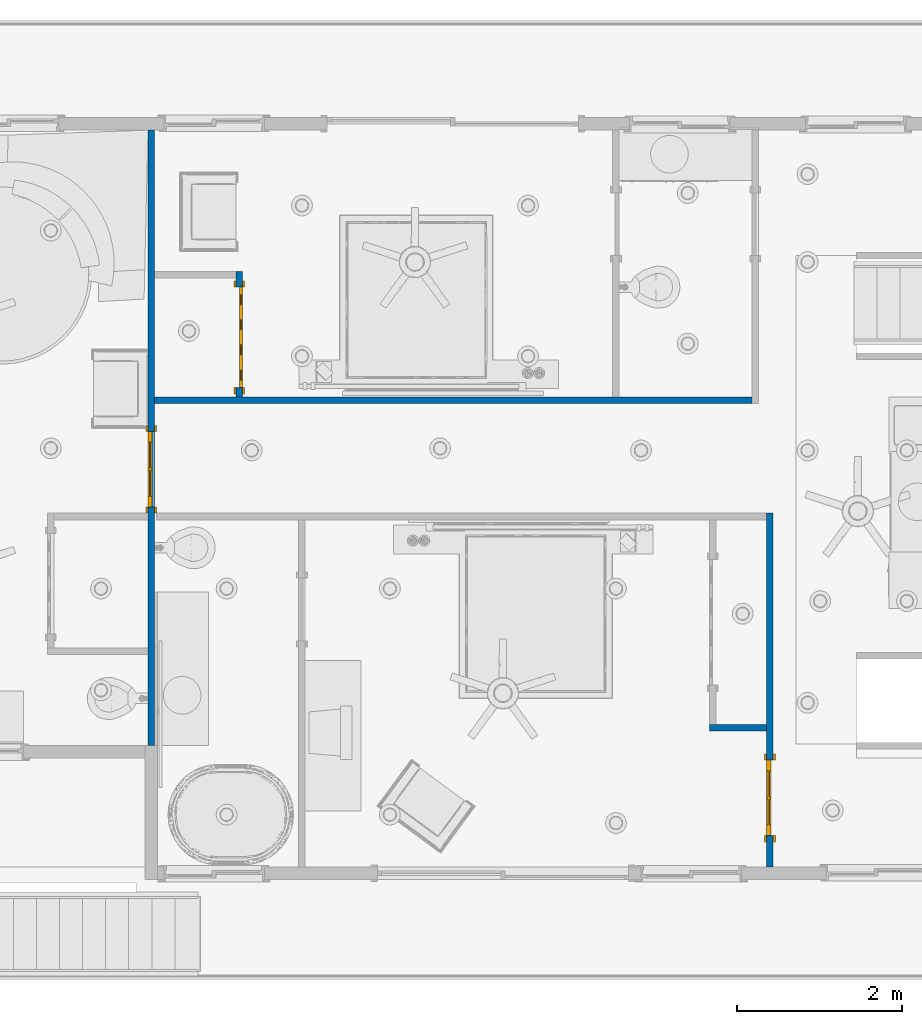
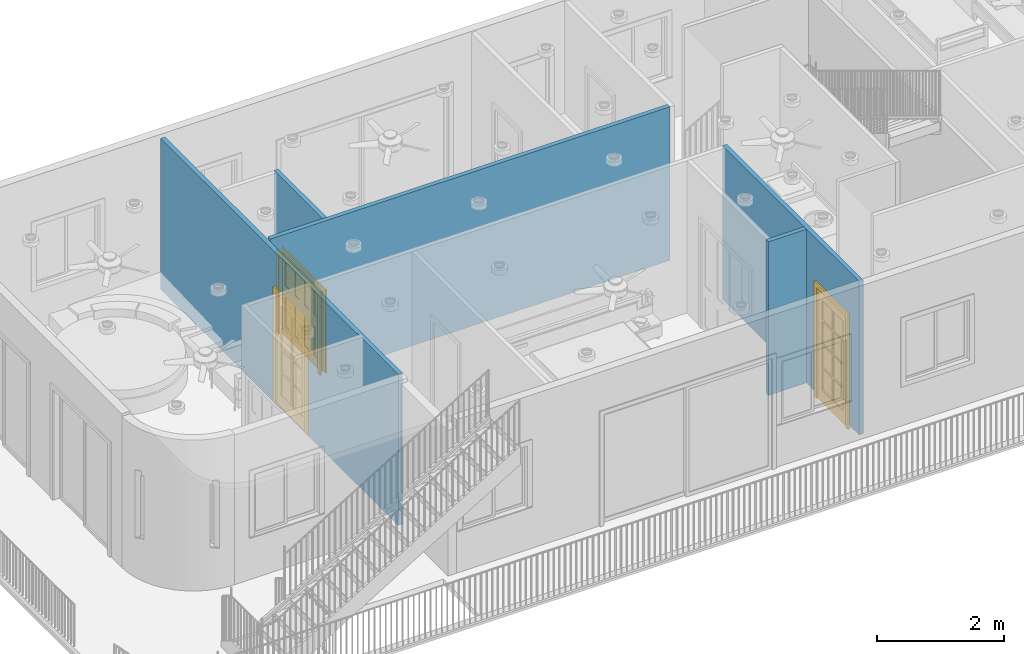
# One storey, part 3 of 28: 5 walls, 3 doors, 3 openings.
"""IFC2X3 building model written with IfcOpenShell, lengths in feet."""

from ifc_helpers import new_model, entity, si_unit, converted_unit, derived_unit, direction, frame, frame_2d, origin, origin_2d_with_axis, place, context, subcontext, project, spatial, polyline, rectangle, outline, extrude, source, transform, mapped, material, material_list, layer, layer_set, layer_usage, type_object, type_shapes, element, fill, save


model = new_model("IFC2X3")

# Units and contexts
model_context = context("Model", 3, precision=0.0001, world=origin(), true_north=direction((6.12303176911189e-17, 1.0)))
body_context = subcontext(model_context, "Body", "Model", "MODEL_VIEW")
ifc_project = project(units=[converted_unit("LENGTHUNIT", "FOOT", entity("IfcRatioMeasure", 0.3048), si_unit("LENGTHUNIT", "METRE"), dimensions=[1, 0, 0, 0, 0, 0, 0]), converted_unit("AREAUNIT", "SQUARE FOOT", entity("IfcRatioMeasure", 0.09290304), si_unit("AREAUNIT", "SQUARE_METRE"), dimensions=[2, 0, 0, 0, 0, 0, 0]), converted_unit("VOLUMEUNIT", "CUBIC FOOT", entity("IfcRatioMeasure", 0.028316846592), si_unit("VOLUMEUNIT", "CUBIC_METRE"), dimensions=[3, 0, 0, 0, 0, 0, 0]), converted_unit("PLANEANGLEUNIT", "DEGREE", entity("IfcRatioMeasure", 0.0174532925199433), si_unit("PLANEANGLEUNIT", "RADIAN"), dimensions=[0, 0, 0, 0, 0, 0, 0]), si_unit("MASSUNIT", "GRAM", prefix="KILO"), derived_unit("MASSDENSITYUNIT", [(si_unit("MASSUNIT", "GRAM", prefix="KILO"), 1), (si_unit("LENGTHUNIT", "METRE"), -3)]), si_unit("TIMEUNIT", "SECOND"), si_unit("FREQUENCYUNIT", "HERTZ"), si_unit("THERMODYNAMICTEMPERATUREUNIT", "DEGREE_CELSIUS"), derived_unit("THERMALTRANSMITTANCEUNIT", [(si_unit("MASSUNIT", "GRAM", prefix="KILO"), 1), (si_unit("THERMODYNAMICTEMPERATUREUNIT", "KELVIN"), -1), (si_unit("TIMEUNIT", "SECOND"), -3)]), derived_unit("VOLUMETRICFLOWRATEUNIT", [(si_unit("LENGTHUNIT", "METRE"), 3), (si_unit("TIMEUNIT", "SECOND"), -1)]), si_unit("ELECTRICCURRENTUNIT", "AMPERE"), si_unit("ELECTRICVOLTAGEUNIT", "VOLT"), si_unit("POWERUNIT", "WATT"), si_unit("FORCEUNIT", "NEWTON"), si_unit("ILLUMINANCEUNIT", "LUX"), si_unit("LUMINOUSFLUXUNIT", "LUMEN"), si_unit("LUMINOUSINTENSITYUNIT", "CANDELA"), derived_unit("USERDEFINED", [(si_unit("MASSUNIT", "GRAM", prefix="KILO"), -1), (si_unit("LENGTHUNIT", "METRE"), -2), (si_unit("TIMEUNIT", "SECOND"), 3), (si_unit("LUMINOUSFLUXUNIT", "LUMEN"), 1)]), derived_unit("LINEARVELOCITYUNIT", [(si_unit("LENGTHUNIT", "METRE"), 1), (si_unit("TIMEUNIT", "SECOND"), -1)]), si_unit("PRESSUREUNIT", "PASCAL"), derived_unit("USERDEFINED", [(si_unit("LENGTHUNIT", "METRE"), -2), (si_unit("MASSUNIT", "GRAM", prefix="KILO"), 1), (si_unit("TIMEUNIT", "SECOND"), -2)])], contexts=[model_context])

# Site, building, storey
site_placement = place(None, origin())
site = spatial("IfcSite", under=ifc_project, at=site_placement, Name="表面", CompositionType="ELEMENT")
building_placement = place(site_placement, origin())
building = spatial("IfcBuilding", under=site, at=building_placement, CompositionType="ELEMENT")
storey_placement = place(building_placement, frame((0.0, 0.0, 10.0)))
storey = spatial("IfcBuildingStorey", under=building, at=storey_placement, Name="Level 2", CompositionType="ELEMENT", Elevation=9.99999999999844)

# Wall, opening, door
ifc_material_1 = material(Name="Gypsum Wall Board")
ifc_layer_1 = layer(ifc_material_1, 0.0416666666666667)
ifc_layer_2 = layer(ifc_material_1, 0.0208333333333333)
ifc_material_2 = material(Name="Metal - Stud Layer")
ifc_layer_3 = layer(ifc_material_2, 0.135416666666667)
ifc_layer_4 = layer(ifc_material_1, 0.0208333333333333)
ifc_layer_5 = layer(ifc_material_1, 0.0416666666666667)
ifc_layer_set = layer_set([ifc_layer_1, ifc_layer_2, ifc_layer_3, ifc_layer_4, ifc_layer_5], Name="基本墙:Interior - 3 1/8\" Partition (1-hr)")
ifc_layer_usage_1 = layer_usage(ifc_layer_set, "AXIS2", "NEGATIVE", 0.130208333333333)
wall_type = type_object("IfcWallType", Name="基本墙:Interior - 3 1/8\" Partition (1-hr)", PredefinedType="STANDARD", material=ifc_layer_set)
wall_1_placement = place(storey_placement, frame((-19.8682464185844, -8.06760630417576, 0.250000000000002), z_axis=(0.0, 0.0, 1.0), x_axis=(0.0, 1.0, 0.0)))
wall_1 = element("IfcWallStandardCase", 1, at=wall_1_placement, inside=storey, type_object=wall_type, material=ifc_layer_usage_1, Name="基本墙:Interior - 3 1/8\" Partition (1-hr)", ObjectType="基本墙:Interior - 3 1/8\" Partition (1-hr):258", context=body_context, shape_type="SweptSolid", body=[
    extrude(rectangle(XDim=24.5, YDim=0.260416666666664, at=frame_2d((12.25, -3.88578058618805e-16), x_axis=(-1.0, 0.0))), origin(), (0.0, 0.0, 1.0), 9.5),
])
opening_1_placement = place(wall_1_placement, frame((9.5, -0.130208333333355, 0.0833333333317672)))
opening_1 = element("IfcOpeningElement", 2, at=opening_1_placement, cuts=wall_1, Name="Single-Glass 2:30\" x 84\":1", ObjectType="Opening", context=body_context, shape_type="SweptSolid", body=[
    extrude(rectangle(XDim=3.0, YDim=7.0, at=frame_2d((3.5, 1.5), x_axis=(0.0, -1.0))), frame((0.0, 0.0, 0.0), z_axis=(0.0, 1.0, 0.0), x_axis=(0.0, 0.0, 1.0)), (0.0, 0.0, 1.0), 0.260416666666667),
])
ifc_material_3 = material(Name="Door - Frame")
ifc_material_4 = material(Name="Door - Panel")
ifc_material_5 = material(Name="Glass")
ifc_material_list_1 = material_list([ifc_material_3, ifc_material_4, ifc_material_5])
ifc_material_list_2 = material_list([ifc_material_3, ifc_material_4, ifc_material_5])
door_style_1 = type_object("IfcDoorStyle", Name="30\" x 84\"", ConstructionType="NOTDEFINED", OperationType="SINGLE_SWING_LEFT", ParameterTakesPrecedence=False, Sizeable=False, material=ifc_material_list_2)
shared_shape_1 = source(origin(), body_context, "Body", "SweptSolid", [
    extrude(outline(polyline([(-3.68750000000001, -1.74999999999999), (3.56250000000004, -1.74999999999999), (3.56250000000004, -1.49999999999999), (-3.43750000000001, -1.49999999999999), (-3.43750000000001, 1.49999999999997), (3.56249999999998, 1.49999999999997), (3.56249999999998, 1.75000000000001), (-3.68750000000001, 1.75000000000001), (-3.68750000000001, -1.74999999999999)])), frame((1.33333333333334, 0.0, 3.56249999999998), z_axis=(0.0, -1.0, 0.0), x_axis=(0.0, 0.0, -1.0)), (0.0, 0.0, 1.0), 0.0833333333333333),
    extrude(outline(polyline([(-1.75000000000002, -3.68750000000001), (1.74999999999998, -3.68750000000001), (1.74999999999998, 3.56250000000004), (1.50000000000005, 3.56250000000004), (1.50000000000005, -3.43750000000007), (-1.50000000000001, -3.43750000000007), (-1.50000000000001, 3.56250000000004), (-1.75000000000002, 3.56250000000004), (-1.75000000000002, -3.68750000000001)])), frame((1.33333333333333, 0.343749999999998, 3.56249999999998), z_axis=(0.0, -1.0, 0.0), x_axis=(-1.0, 0.0, 0.0)), (0.0, 0.0, 1.0), 0.0833333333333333),
    extrude(outline(polyline([(-3.50000000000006, -1.50000000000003), (3.50000000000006, -1.50000000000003), (3.50000000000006, 1.50000000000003), (-3.50000000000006, 1.50000000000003), (-3.50000000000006, -1.50000000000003)]), holes=[polyline([(-2.91666666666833, 0.0416666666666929), (-2.91666666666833, 1.08333333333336), (-1.68750000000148, 1.08333333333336), (-1.68750000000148, 0.0416666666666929), (-2.91666666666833, 0.0416666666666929)]), polyline([(-2.91666666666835, -1.08333333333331), (-2.91666666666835, -0.0416666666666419), (-1.68750000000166, -0.0416666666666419), (-1.68750000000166, -1.08333333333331), (-2.91666666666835, -1.08333333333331)]), polyline([(-1.60416666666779, 0.0416666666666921), (-1.60416666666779, 1.08333333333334), (-0.208333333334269, 1.08333333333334), (-0.208333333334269, 0.0416666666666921), (-1.60416666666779, 0.0416666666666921)]), polyline([(-1.60416666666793, -1.08333333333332), (-1.60416666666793, -0.0416666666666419), (-0.208333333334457, -0.0416666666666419), (-0.208333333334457, -1.08333333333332), (-1.60416666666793, -1.08333333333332)]), polyline([(-0.125000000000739, 0.0416666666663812), (-0.125000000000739, 1.08333333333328), (1.27083333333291, 1.08333333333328), (1.27083333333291, 0.0416666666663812), (-0.125000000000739, 0.0416666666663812)]), polyline([(-0.125000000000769, -1.08333333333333), (-0.125000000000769, -0.0416666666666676), (1.27083333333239, -0.0416666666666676), (1.27083333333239, -1.08333333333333), (-0.125000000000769, -1.08333333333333)]), polyline([(1.35416666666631, 0.0416666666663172), (1.35416666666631, 1.08333333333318), (2.75000000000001, 1.08333333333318), (2.75000000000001, 0.0416666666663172), (1.35416666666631, 0.0416666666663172)]), polyline([(1.35416666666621, -1.0833333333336), (1.35416666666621, -0.041666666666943), (2.75000000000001, -0.041666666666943), (2.75000000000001, -1.0833333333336), (1.35416666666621, -1.0833333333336)])]), frame((1.33333333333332, 0.260416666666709, 3.49999999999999), z_axis=(0.0, -1.0, 0.0), x_axis=(0.0, 0.0, -1.0)), (0.0, 0.0, 1.0), 0.166666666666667),
    extrude(rectangle(XDim=1.04166666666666, YDim=0.041666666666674, at=origin_2d_with_axis()), frame((0.770833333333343, 0.177083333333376, 5.18750000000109)), (0.0, 0.0, 1.0), 1.22916666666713),
    extrude(rectangle(XDim=1.04166666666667, YDim=0.041666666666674, at=origin_2d_with_axis()), frame((1.89583333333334, 0.177083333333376, 5.18750000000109)), (0.0, 0.0, 1.0), 1.22916666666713),
    extrude(rectangle(XDim=1.04166666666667, YDim=0.041666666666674, at=origin_2d_with_axis()), frame((0.770833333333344, 0.177083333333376, 3.70833333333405)), (0.0, 0.0, 1.0), 1.39583333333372),
    extrude(rectangle(XDim=1.04166666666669, YDim=0.041666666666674, at=origin_2d_with_axis()), frame((1.89583333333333, 0.177083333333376, 3.70833333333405)), (0.0, 0.0, 1.0), 1.39583333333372),
    extrude(rectangle(XDim=1.04166666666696, YDim=0.041666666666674, at=origin_2d_with_axis()), frame((1.8958333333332, 0.177083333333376, 2.22916666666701)), (0.0, 0.0, 1.0), 1.39583333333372),
    extrude(rectangle(XDim=1.04166666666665, YDim=0.041666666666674, at=origin_2d_with_axis()), frame((0.770833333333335, 0.177083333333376, 2.22916666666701)), (0.0, 0.0, 1.0), 1.39583333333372),
    extrude(rectangle(XDim=1.04166666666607, YDim=0.041666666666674, at=origin_2d_with_axis()), frame((0.770833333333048, 0.177083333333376, 0.749999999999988)), (0.0, 0.0, 1.0), 1.39583333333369),
    extrude(rectangle(XDim=1.04166666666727, YDim=0.041666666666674, at=origin_2d_with_axis()), frame((1.89583333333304, 0.177083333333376, 0.749999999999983)), (0.0, 0.0, 1.0), 1.3958333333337),
])
type_shapes(door_style_1, [shared_shape_1])
door_1_placement = place(opening_1_placement, frame((0.166666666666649, 0.0, 0.0)))
door_1 = element("IfcDoor", 3, at=door_1_placement, inside=storey, type_object=door_style_1, material=ifc_material_list_1, Name="Single-Glass 2:30\" x 84\"", ObjectType="30\" x 84\"", OverallHeight=7.0, OverallWidth=3.0, context=body_context, shape_type="MappedRepresentation", body=[
    mapped(shared_shape_1, transform((0.0, 0.0, 0.0), scale=1.0)),
])
fill(opening_1, door_1)

ifc_layer_usage_2 = layer_usage(ifc_layer_set, "AXIS2", "NEGATIVE", 0.130208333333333)
wall_2_placement = place(storey_placement, frame((4.76196191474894, 1.18239369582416, 0.250000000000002), z_axis=(0.0, 0.0, 1.0), x_axis=(0.0, -1.0, 0.0)))
wall_2 = element("IfcWallStandardCase", 4, at=wall_2_placement, inside=storey, type_object=wall_type, material=ifc_layer_usage_2, Name="基本墙:Interior - 3 1/8\" Partition (1-hr)", ObjectType="基本墙:Interior - 3 1/8\" Partition (1-hr):258", context=body_context, shape_type="SweptSolid", body=[
    extrude(rectangle(XDim=14.0833333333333, YDim=0.260416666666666, at=frame_2d((7.04166666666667, -1.2490009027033e-16), x_axis=(-1.0, 0.0))), origin(), (0.0, 0.0, 1.0), 9.66666666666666),
])
opening_2_placement = place(wall_2_placement, frame((12.8333333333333, 0.130208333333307, -0.250000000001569)))
opening_2 = element("IfcOpeningElement", 5, at=opening_2_placement, cuts=wall_2, Name="Single-Glass 2:30\" x 84\":1", ObjectType="Opening", context=body_context, shape_type="SweptSolid", body=[
    extrude(rectangle(XDim=3.0, YDim=7.0, at=frame_2d((3.5, 1.5), x_axis=(0.0, 1.0))), frame((0.0, 0.0, 0.0), z_axis=(0.0, -1.0, 0.0), x_axis=(0.0, 0.0, 1.0)), (0.0, 0.0, 1.0), 0.260416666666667),
])
ifc_material_list_3 = material_list([ifc_material_3, ifc_material_4, ifc_material_5])
ifc_material_list_4 = material_list([ifc_material_3, ifc_material_4, ifc_material_5])
door_style_2 = type_object("IfcDoorStyle", Name="30\" x 84\"", ConstructionType="NOTDEFINED", OperationType="SINGLE_SWING_RIGHT", ParameterTakesPrecedence=False, Sizeable=False, material=ifc_material_list_4)
shared_shape_2 = source(origin(), body_context, "Body", "SweptSolid", [
    extrude(outline(polyline([(-3.68750000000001, -1.74999999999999), (3.56250000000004, -1.74999999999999), (3.56250000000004, -1.49999999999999), (-3.43750000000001, -1.49999999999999), (-3.43750000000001, 1.49999999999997), (3.56249999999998, 1.49999999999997), (3.56249999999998, 1.75000000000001), (-3.68750000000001, 1.75000000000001), (-3.68750000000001, -1.74999999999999)])), frame((1.50000000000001, -0.0833333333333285, 3.56249999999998), z_axis=(0.0, 1.0, 0.0), x_axis=(0.0, 0.0, -1.0)), (0.0, 0.0, 1.0), 0.0833333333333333),
    extrude(outline(polyline([(-1.75000000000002, -3.68750000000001), (1.74999999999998, -3.68750000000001), (1.74999999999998, 3.56250000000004), (1.50000000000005, 3.56250000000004), (1.50000000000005, -3.43750000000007), (-1.50000000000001, -3.43750000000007), (-1.50000000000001, 3.56250000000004), (-1.75000000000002, 3.56250000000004), (-1.75000000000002, -3.68750000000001)])), frame((1.50000000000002, 0.260416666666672, 3.56249999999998), z_axis=(0.0, 1.0, 0.0), x_axis=(1.0, 0.0, 0.0)), (0.0, 0.0, 1.0), 0.0833333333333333),
    extrude(outline(polyline([(-3.50000000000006, -1.50000000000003), (3.50000000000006, -1.50000000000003), (3.50000000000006, 1.50000000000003), (-3.50000000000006, 1.50000000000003), (-3.50000000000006, -1.50000000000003)]), holes=[polyline([(-2.91666666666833, 0.0416666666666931), (-2.91666666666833, 1.08333333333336), (-1.68750000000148, 1.08333333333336), (-1.68750000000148, 0.0416666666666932), (-2.91666666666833, 0.0416666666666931)]), polyline([(-2.91666666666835, -1.08333333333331), (-2.91666666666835, -0.0416666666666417), (-1.68750000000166, -0.0416666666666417), (-1.68750000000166, -1.08333333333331), (-2.91666666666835, -1.08333333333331)]), polyline([(-1.60416666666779, 0.0416666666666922), (-1.60416666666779, 1.08333333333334), (-0.208333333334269, 1.08333333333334), (-0.208333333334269, 0.0416666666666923), (-1.60416666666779, 0.0416666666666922)]), polyline([(-1.60416666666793, -1.08333333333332), (-1.60416666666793, -0.0416666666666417), (-0.208333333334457, -0.0416666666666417), (-0.208333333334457, -1.08333333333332), (-1.60416666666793, -1.08333333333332)]), polyline([(-0.125000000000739, 0.0416666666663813), (-0.125000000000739, 1.08333333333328), (1.27083333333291, 1.08333333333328), (1.27083333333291, 0.0416666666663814), (-0.125000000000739, 0.0416666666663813)]), polyline([(-0.125000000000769, -1.08333333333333), (-0.125000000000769, -0.0416666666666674), (1.27083333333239, -0.0416666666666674), (1.27083333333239, -1.08333333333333), (-0.125000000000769, -1.08333333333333)]), polyline([(1.35416666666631, 0.0416666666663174), (1.35416666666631, 1.08333333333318), (2.75000000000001, 1.08333333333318), (2.75000000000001, 0.0416666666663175), (1.35416666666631, 0.0416666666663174)]), polyline([(1.35416666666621, -1.0833333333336), (1.35416666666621, -0.0416666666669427), (2.75000000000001, -0.0416666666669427), (2.75000000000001, -1.0833333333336), (1.35416666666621, -1.0833333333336)])]), frame((1.50000000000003, 0.0937500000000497, 3.49999999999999), z_axis=(0.0, 1.0, 0.0), x_axis=(0.0, 0.0, -1.0)), (0.0, 0.0, 1.0), 0.166666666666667),
    extrude(rectangle(XDim=0.041666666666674, YDim=1.04166666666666, at=origin_2d_with_axis()), frame((2.06250000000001, 0.177083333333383, 5.18750000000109), z_axis=(0.0, 0.0, 1.0), x_axis=(0.0, 1.0, 0.0)), (0.0, 0.0, 1.0), 1.22916666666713),
    extrude(rectangle(XDim=0.041666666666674, YDim=1.04166666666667, at=origin_2d_with_axis()), frame((0.937500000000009, 0.177083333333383, 5.18750000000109), z_axis=(0.0, 0.0, 1.0), x_axis=(0.0, 1.0, 0.0)), (0.0, 0.0, 1.0), 1.22916666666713),
    extrude(rectangle(XDim=0.041666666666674, YDim=1.04166666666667, at=origin_2d_with_axis()), frame((2.06250000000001, 0.177083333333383, 3.70833333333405), z_axis=(0.0, 0.0, 1.0), x_axis=(0.0, 1.0, 0.0)), (0.0, 0.0, 1.0), 1.39583333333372),
    extrude(rectangle(XDim=0.041666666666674, YDim=1.04166666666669, at=origin_2d_with_axis()), frame((0.937500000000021, 0.177083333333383, 3.70833333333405), z_axis=(0.0, 0.0, 1.0), x_axis=(0.0, 1.0, 0.0)), (0.0, 0.0, 1.0), 1.39583333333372),
    extrude(rectangle(XDim=0.041666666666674, YDim=1.04166666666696, at=origin_2d_with_axis()), frame((0.937500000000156, 0.177083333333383, 2.22916666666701), z_axis=(0.0, 0.0, 1.0), x_axis=(0.0, 1.0, 0.0)), (0.0, 0.0, 1.0), 1.39583333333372),
    extrude(rectangle(XDim=0.041666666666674, YDim=1.04166666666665, at=origin_2d_with_axis()), frame((2.06250000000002, 0.177083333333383, 2.22916666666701), z_axis=(0.0, 0.0, 1.0), x_axis=(0.0, 1.0, 0.0)), (0.0, 0.0, 1.0), 1.39583333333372),
    extrude(rectangle(XDim=0.041666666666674, YDim=1.04166666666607, at=frame_2d((0.0, -1.11022302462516e-16), x_axis=(1.0, 0.0))), frame((2.0625000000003, 0.177083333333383, 0.749999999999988), z_axis=(0.0, 0.0, 1.0), x_axis=(0.0, 1.0, 0.0)), (0.0, 0.0, 1.0), 1.39583333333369),
    extrude(rectangle(XDim=0.041666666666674, YDim=1.04166666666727, at=origin_2d_with_axis()), frame((0.937500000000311, 0.177083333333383, 0.749999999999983), z_axis=(0.0, 0.0, 1.0), x_axis=(0.0, 1.0, 0.0)), (0.0, 0.0, 1.0), 1.3958333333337),
])
type_shapes(door_style_2, [shared_shape_2])
door_2_placement = place(opening_2_placement, frame((0.0, 0.0, 0.0), z_axis=(0.0, 0.0, 1.0), x_axis=(-1.0, 0.0, 0.0)))
door_2 = element("IfcDoor", 6, at=door_2_placement, inside=storey, type_object=door_style_2, material=ifc_material_list_3, Name="Single-Glass 2:30\" x 84\"", ObjectType="30\" x 84\"", OverallHeight=7.0, OverallWidth=3.0, context=body_context, shape_type="MappedRepresentation", body=[
    mapped(shared_shape_2, transform((0.0, 0.0, 0.0), scale=1.0)),
])
fill(opening_2, door_2)

# Wall
ifc_layer_usage_3 = layer_usage(ifc_layer_set, "AXIS2", "NEGATIVE", 0.130208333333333)
wall_3_placement = place(storey_placement, frame((4.6317535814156, -7.36448130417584, 0.250000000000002), z_axis=(0.0, 0.0, 1.0), x_axis=(-1.0, 0.0, 0.0)))
element("IfcWallStandardCase", 7, at=wall_3_placement, inside=storey, type_object=wall_type, material=ifc_layer_usage_3, Name="基本墙:Interior - 3 1/8\" Partition (1-hr)", ObjectType="基本墙:Interior - 3 1/8\" Partition (1-hr):258", context=body_context, shape_type="SweptSolid", body=[
    extrude(rectangle(XDim=2.27083333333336, YDim=0.260416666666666, at=frame_2d((1.13541666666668, 1.11022302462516e-16), x_axis=(-1.0, 0.0))), origin(), (0.0, 0.0, 1.0), 9.66666666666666),
])

# Wall, opening, door
ifc_layer_usage_4 = layer_usage(ifc_layer_set, "AXIS2", "NEGATIVE", 0.130208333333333)
wall_4_placement = place(storey_placement, frame((-16.3682464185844, 5.81260202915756, 0.250000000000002), z_axis=(0.0, 0.0, 1.0), x_axis=(0.0, 1.0, 0.0)))
wall_4 = element("IfcWallStandardCase", 8, at=wall_4_placement, inside=storey, type_object=wall_type, material=ifc_layer_usage_4, Name="基本墙:Interior - 3 1/8\" Partition (1-hr)", ObjectType="基本墙:Interior - 3 1/8\" Partition (1-hr):258", context=body_context, shape_type="SweptSolid", body=[
    extrude(rectangle(XDim=5.0, YDim=0.260416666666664, at=frame_2d((2.5, -1.38777878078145e-17), x_axis=(-1.0, 0.0))), origin(), (0.0, 0.0, 1.0), 9.66666666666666),
])
opening_3_placement = place(wall_4_placement, frame((4.36979166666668, 0.130208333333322, -0.250000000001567)))
opening_3 = element("IfcOpeningElement", 9, at=opening_3_placement, cuts=wall_4, Name="Bifold-4 Panel:48\" x 84\":1", ObjectType="Opening", context=body_context, shape_type="SweptSolid", body=[
    extrude(rectangle(XDim=5.0, YDim=4.0, at=frame_2d((2.5, 2.0), x_axis=(1.0, 0.0))), frame((0.0, 0.0, 0.0), z_axis=(0.0, -1.0, 0.0), x_axis=(0.0, 0.0, 1.0)), (0.0, 0.0, 1.0), 0.260416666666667),
])
ifc_material_list_5 = material_list([ifc_material_4, ifc_material_3])
ifc_material_list_6 = material_list([ifc_material_4, ifc_material_3])
door_style_3 = type_object("IfcDoorStyle", Name="48\" x 84\"", ConstructionType="NOTDEFINED", OperationType="NOTDEFINED", ParameterTakesPrecedence=False, Sizeable=False, material=ifc_material_list_6)
shared_shape_3 = source(origin(), body_context, "Body", "SweptSolid", [
    extrude(rectangle(XDim=0.0416666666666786, YDim=0.416666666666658, at=frame_2d((3.46944695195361e-18, -1.11022302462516e-16), x_axis=(1.0, 0.0))), frame((0.499999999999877, 0.197916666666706, 3.16666666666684), z_axis=(0.0, 0.0, 1.0), x_axis=(0.0, -1.0, 0.0)), (0.0, 0.0, 1.0), 1.56250000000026),
    extrude(rectangle(XDim=0.0416666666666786, YDim=0.416666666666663, at=frame_2d((6.93889390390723e-18, -1.11022302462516e-16), x_axis=(1.0, 0.0))), frame((3.49999999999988, 0.197916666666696, 3.16666666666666), z_axis=(0.0, 0.0, 1.0), x_axis=(0.0, -1.0, 0.0)), (0.0, 0.0, 1.0), 1.56250000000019),
    extrude(rectangle(XDim=0.0416666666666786, YDim=0.416666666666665, at=frame_2d((6.93889390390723e-18, 0.0), x_axis=(1.0, 0.0))), frame((3.49999999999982, 0.197916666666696, 0.604166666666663), z_axis=(0.0, 0.0, 1.0), x_axis=(0.0, -1.0, 0.0)), (0.0, 0.0, 1.0), 1.85416666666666),
    extrude(rectangle(XDim=0.0416666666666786, YDim=0.416666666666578, at=frame_2d((6.93889390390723e-18, 0.0), x_axis=(1.0, 0.0))), frame((2.49999999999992, 0.197916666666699, 3.16666666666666), z_axis=(0.0, 0.0, 1.0), x_axis=(0.0, -1.0, 0.0)), (0.0, 0.0, 1.0), 1.5625000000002),
    extrude(rectangle(XDim=0.0416666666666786, YDim=0.41666666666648, at=frame_2d((6.93889390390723e-18, 0.0), x_axis=(1.0, 0.0))), frame((2.49999999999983, 0.197916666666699, 0.604166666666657), z_axis=(0.0, 0.0, 1.0), x_axis=(0.0, -1.0, 0.0)), (0.0, 0.0, 1.0), 1.85416666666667),
    extrude(rectangle(XDim=0.0416666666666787, YDim=0.416666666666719, at=frame_2d((1.04083408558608e-17, 0.0), x_axis=(1.0, 0.0))), frame((1.49999999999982, 0.197916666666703, 0.604166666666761), z_axis=(0.0, 0.0, 1.0), x_axis=(0.0, -1.0, 0.0)), (0.0, 0.0, 1.0), 1.85416666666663),
    extrude(rectangle(XDim=0.0416666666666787, YDim=0.416666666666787, at=frame_2d((1.04083408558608e-17, 0.0), x_axis=(1.0, 0.0))), frame((1.49999999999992, 0.197916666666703, 3.16666666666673), z_axis=(0.0, 0.0, 1.0), x_axis=(0.0, -1.0, 0.0)), (0.0, 0.0, 1.0), 1.56250000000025),
    extrude(rectangle(XDim=0.0416666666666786, YDim=0.416666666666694, at=frame_2d((3.46944695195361e-18, -1.11022302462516e-16), x_axis=(1.0, 0.0))), frame((0.499999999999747, 0.197916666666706, 0.604166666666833), z_axis=(0.0, 0.0, 1.0), x_axis=(0.0, -1.0, 0.0)), (0.0, 0.0, 1.0), 1.85416666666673),
    extrude(outline(polyline([(-2.24999999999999, -2.5625), (-2.0, -2.5625), (-2.0, 2.4375), (2.0, 2.4375), (2.0, -2.5625), (2.25000000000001, -2.5625), (2.25000000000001, 2.6875), (-2.24999999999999, 2.6875), (-2.24999999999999, -2.5625)])), frame((2.0, -0.0833333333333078, 2.5625), z_axis=(0.0, 1.0, 0.0), x_axis=(-1.0, 0.0, 0.0)), (0.0, 0.0, 1.0), 0.0833333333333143),
    extrude(outline(polyline([(-2.25000000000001, -2.5625), (-2.0, -2.5625), (-2.0, 2.4375), (2.0, 2.4375), (2.0, -2.5625), (2.25, -2.5625), (2.25, 2.6875), (-2.25000000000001, 2.6875), (-2.25000000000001, -2.5625)])), frame((2.0, 0.260416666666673, 2.5625), z_axis=(0.0, 1.0, 0.0), x_axis=(-1.0, 0.0, 0.0)), (0.0, 0.0, 1.0), 0.0833333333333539),
    extrude(outline(polyline([(-2.5, -0.5), (2.5, -0.5), (2.5, 0.5), (-2.5, 0.5), (-2.5, -0.5)]), holes=[polyline([(2.22916666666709, -0.208333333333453), (0.666666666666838, -0.208333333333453), (0.666666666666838, 0.208333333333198), (2.22916666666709, 0.208333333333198), (2.22916666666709, -0.208333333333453)]), polyline([(-0.0416666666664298, -0.208333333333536), (-1.89583333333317, -0.208333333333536), (-1.89583333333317, 0.208333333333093), (-0.0416666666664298, 0.208333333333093), (-0.0416666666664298, -0.208333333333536)])]), frame((0.5, 0.135416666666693, 2.5), z_axis=(0.0, 1.0, 0.0), x_axis=(0.0, 0.0, 1.0)), (0.0, 0.0, 1.0), 0.124999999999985),
    extrude(outline(polyline([(-2.5, -0.499999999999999), (2.5, -0.499999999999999), (2.5, 0.499999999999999), (-2.5, 0.499999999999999), (-2.5, -0.499999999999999)]), holes=[polyline([(2.22916666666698, -0.208333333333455), (0.666666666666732, -0.208333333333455), (0.666666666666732, 0.208333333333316), (2.22916666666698, 0.208333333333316), (2.22916666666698, -0.208333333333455)]), polyline([(-0.0416666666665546, -0.208333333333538), (-1.89583333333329, -0.208333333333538), (-1.89583333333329, 0.208333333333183), (-0.0416666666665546, 0.208333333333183), (-0.0416666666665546, -0.208333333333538)])]), frame((1.5, 0.13541666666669, 2.5), z_axis=(0.0, 1.0, 0.0), x_axis=(0.0, 0.0, 1.0)), (0.0, 0.0, 1.0), 0.124999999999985),
    extrude(outline(polyline([(-2.5, -0.500000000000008), (2.5, -0.500000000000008), (2.5, 0.500000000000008), (-2.5, 0.500000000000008), (-2.5, -0.500000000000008)]), holes=[polyline([(2.22916666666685, -0.20833333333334), (0.666666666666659, -0.20833333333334), (0.666666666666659, 0.208333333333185), (2.22916666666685, 0.208333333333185), (2.22916666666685, -0.20833333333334)]), polyline([(-0.041666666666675, -0.208333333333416), (-1.89583333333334, -0.208333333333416), (-1.89583333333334, 0.208333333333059), (-0.041666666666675, 0.208333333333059), (-0.041666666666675, -0.208333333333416)])]), frame((2.50000000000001, 0.135416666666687, 2.5), z_axis=(0.0, 1.0, 0.0), x_axis=(0.0, 0.0, 1.0)), (0.0, 0.0, 1.0), 0.124999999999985),
    extrude(outline(polyline([(-2.5, -0.500000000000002), (2.5, -0.500000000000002), (2.5, 0.500000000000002), (-2.5, 0.500000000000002), (-2.5, -0.500000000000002)]), holes=[polyline([(2.22916666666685, -0.208333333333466), (0.666666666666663, -0.208333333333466), (0.666666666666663, 0.208333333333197), (2.22916666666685, 0.208333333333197), (2.22916666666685, -0.208333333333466)]), polyline([(-0.0416666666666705, -0.208333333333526), (-1.89583333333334, -0.208333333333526), (-1.89583333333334, 0.208333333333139), (-0.0416666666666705, 0.208333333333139), (-0.0416666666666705, -0.208333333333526)])]), frame((3.50000000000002, 0.135416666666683, 2.5), z_axis=(0.0, 1.0, 0.0), x_axis=(0.0, 0.0, 1.0)), (0.0, 0.0, 1.0), 0.124999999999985),
])
type_shapes(door_style_3, [shared_shape_3])
door_3_placement = place(opening_3_placement, frame((0.0, 0.0, 0.0), z_axis=(0.0, 0.0, 1.0), x_axis=(-1.0, 0.0, 0.0)))
door_3 = element("IfcDoor", 10, at=door_3_placement, inside=storey, type_object=door_style_3, material=ifc_material_list_5, Name="Bifold-4 Panel:48\" x 84\"", ObjectType="48\" x 84\"", OverallHeight=5.0, OverallWidth=4.0, context=body_context, shape_type="MappedRepresentation", body=[
    mapped(shared_shape_3, transform((0.0, 0.0, 0.0), scale=1.0)),
])
fill(opening_3, door_3)

# Wall
ifc_layer_usage_5 = layer_usage(ifc_layer_set, "AXIS2", "NEGATIVE", 0.130208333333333)
wall_5_placement = place(storey_placement, frame((4.04842024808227, 5.68239369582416, 0.250000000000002), z_axis=(0.0, 0.0, 1.0), x_axis=(-1.0, 0.0, 0.0)))
element("IfcWallStandardCase", 11, at=wall_5_placement, inside=storey, type_object=wall_type, material=ifc_layer_usage_5, Name="基本墙:Interior - 3 1/8\" Partition (1-hr)", ObjectType="基本墙:Interior - 3 1/8\" Partition (1-hr):258", context=body_context, shape_type="SweptSolid", body=[
    extrude(rectangle(XDim=23.7864583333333, YDim=0.260416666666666, at=frame_2d((11.8932291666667, -4.16333634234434e-16), x_axis=(-1.0, 0.0))), origin(), (0.0, 0.0, 1.0), 9.66666666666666),
])

save(model, "model.ifc")
